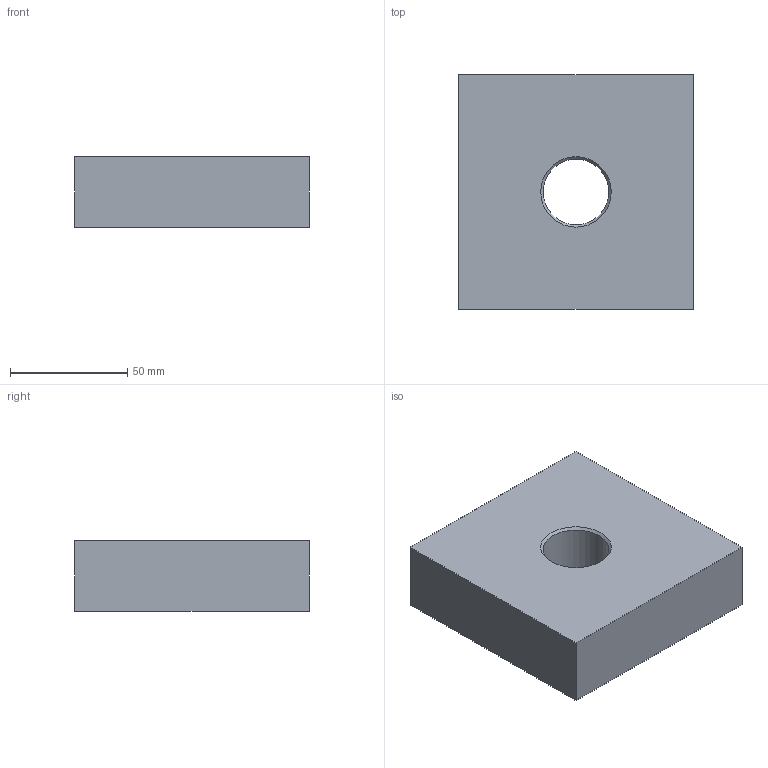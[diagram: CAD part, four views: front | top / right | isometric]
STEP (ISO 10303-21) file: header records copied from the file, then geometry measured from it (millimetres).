
FILE_DESCRIPTION(('Open CASCADE Model'),'2;1');
FILE_NAME('Open CASCADE Shape Model','2026-10-21T17:23:48',('Author'),( 'Open CASCADE'),'Open CASCADE STEP processor 7.9','Open CASCADE 7.9' ,'Unknown');
FILE_SCHEMA(('AUTOMOTIVE_DESIGN { 1 0 10303 214 1 1 1 1 }'));
Length unit declared in the file: millimetre
Products named in the file (1): Open CASCADE STEP translator 7.9 10
Bounding box: 100 x 100 x 30 mm (x, y, z)
Volume: 280436.5 mm3; surface area: 33767.4 mm2
Topology: 1 solids, 1 shells, 16 faces, 29 edges, 19 vertices
Faces by surface type: plane 10, cylinder 5, cone 1
Full cylindrical faces by diameter (mm): 10.2 x4, 28 x1
Entity records: 802 total; most frequent: CARTESIAN_POINT 153, DIRECTION 127, LINE 66, VECTOR 66, ORIENTED_EDGE 58, PCURVE 58, DEFINITIONAL_REPRESENTATION 58, EDGE_CURVE 29
